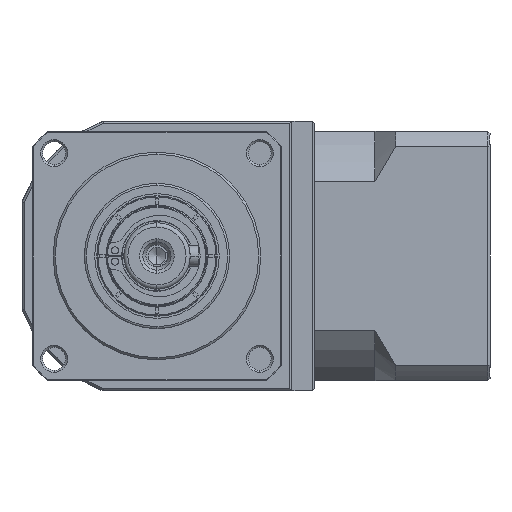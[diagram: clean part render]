
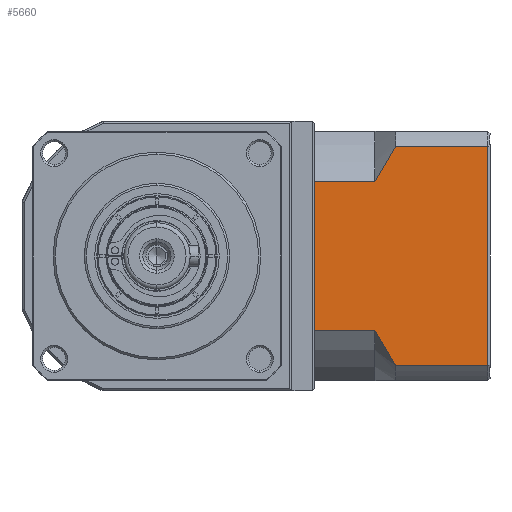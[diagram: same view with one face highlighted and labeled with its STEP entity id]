
A CAD part, left-side view. The second image highlights one B-rep face of the part: STEP entity #5660.
In plain terms, the highlighted planar face has unit normal (-1, 0, 0).
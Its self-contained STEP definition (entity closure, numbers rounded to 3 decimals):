
#797 = CARTESIAN_POINT ( 'NONE',  ( -17.619, -64.363, -105.585 ) ) ;
#2061 = VECTOR ( 'NONE', #17588, 1000. ) ;
#4554 = CARTESIAN_POINT ( 'NONE',  ( -17.619, -83.863, -97.155 ) ) ;
#5353 = CARTESIAN_POINT ( 'NONE',  ( -17.619, -78.863, -150.07 ) ) ;
#5660 = ADVANCED_FACE ( 'NONE', ( #120786 ), #89522, .F. ) ;
#6457 = VERTEX_POINT ( 'NONE', #17277 ) ;
#8419 = VERTEX_POINT ( 'NONE', #16263 ) ;
#9060 = EDGE_CURVE ( 'NONE', #88204, #91848, #43063, .T. ) ;
#9429 = DIRECTION ( 'NONE',  ( 0., -1., 0. ) ) ;
#14483 = DIRECTION ( 'NONE',  ( 0., -1., 0. ) ) ;
#16263 = CARTESIAN_POINT ( 'NONE',  ( -17.619, -64.363, -141.64 ) ) ;
#17277 = CARTESIAN_POINT ( 'NONE',  ( -17.619, -78.863, -105.585 ) ) ;
#17588 = DIRECTION ( 'NONE',  ( 0., 1., 0. ) ) ;
#18416 = AXIS2_PLACEMENT_3D ( 'NONE', #43293, #42782, #41734 ) ;
#20206 = LINE ( 'NONE', #62330, #48760 ) ;
#27168 = VERTEX_POINT ( 'NONE', #45883 ) ;
#27986 = CARTESIAN_POINT ( 'NONE',  ( -17.619, -83.863, -150.07 ) ) ;
#29048 = CARTESIAN_POINT ( 'NONE',  ( -17.619, -82.091, -99.894 ) ) ;
#34324 = CARTESIAN_POINT ( 'NONE',  ( -17.619, -79.614, -143.097 ) ) ;
#35590 = VECTOR ( 'NONE', #39265, 1000. ) ;
#35794 = LINE ( 'NONE', #153232, #96626 ) ;
#37527 = ORIENTED_EDGE ( 'NONE', *, *, #87699, .T. ) ;
#39265 = DIRECTION ( 'NONE',  ( 0., 0., -1. ) ) ;
#39710 = CARTESIAN_POINT ( 'NONE',  ( -17.619, -106.063, -97.155 ) ) ;
#39874 = EDGE_CURVE ( 'NONE', #27168, #91848, #131688, .T. ) ;
#41304 = CARTESIAN_POINT ( 'NONE',  ( -17.619, -79.611, -104.133 ) ) ;
#41734 = DIRECTION ( 'NONE',  ( 0., 1., 0. ) ) ;
#42782 = DIRECTION ( 'NONE',  ( 1., 0., 0. ) ) ;
#43063 = B_SPLINE_CURVE_WITH_KNOTS ( 'NONE', 3,
 ( #131824, #34324, #46583, #58731, #144056, #70936 ),
 .UNSPECIFIED., .F., .F.,
 ( 4, 2, 4 ),
 ( 0.1, 0.104, 0.109 ),
 .UNSPECIFIED. ) ;
#43173 = CARTESIAN_POINT ( 'NONE',  ( -17.619, -78.863, -141.64 ) ) ;
#43293 = CARTESIAN_POINT ( 'NONE',  ( -17.619, -106.563, -153.613 ) ) ;
#43393 = EDGE_CURVE ( 'NONE', #97683, #8419, #128982, .T. ) ;
#45459 = ORIENTED_EDGE ( 'NONE', *, *, #9060, .T. ) ;
#45883 = CARTESIAN_POINT ( 'NONE',  ( -17.619, -106.063, -150.07 ) ) ;
#46583 = CARTESIAN_POINT ( 'NONE',  ( -17.619, -80.414, -144.522 ) ) ;
#47142 = ORIENTED_EDGE ( 'NONE', *, *, #120325, .F. ) ;
#48283 = VERTEX_POINT ( 'NONE', #39710 ) ;
#48760 = VECTOR ( 'NONE', #14483, 1000. ) ;
#49337 = EDGE_LOOP ( 'NONE', ( #75322, #153730, #50801, #37527, #47142, #134863, #56714, #45459 ) ) ;
#50801 = ORIENTED_EDGE ( 'NONE', *, *, #98330, .F. ) ;
#56714 = ORIENTED_EDGE ( 'NONE', *, *, #124557, .F. ) ;
#58731 = CARTESIAN_POINT ( 'NONE',  ( -17.619, -82.088, -147.327 ) ) ;
#62330 = CARTESIAN_POINT ( 'NONE',  ( -17.619, -78.863, -97.155 ) ) ;
#70936 = CARTESIAN_POINT ( 'NONE',  ( -17.619, -83.863, -150.07 ) ) ;
#73522 = VECTOR ( 'NONE', #9429, 1000. ) ;
#75322 = ORIENTED_EDGE ( 'NONE', *, *, #39874, .F. ) ;
#77359 = LINE ( 'NONE', #94561, #73522 ) ;
#77468 = DIRECTION ( 'NONE',  ( 0., 0., 1. ) ) ;
#81496 = VECTOR ( 'NONE', #77468, 1000. ) ;
#87699 = EDGE_CURVE ( 'NONE', #141704, #6457, #115680, .T. ) ;
#88204 = VERTEX_POINT ( 'NONE', #43173 ) ;
#89522 = PLANE ( 'NONE',  #18416 ) ;
#91848 = VERTEX_POINT ( 'NONE', #27986 ) ;
#94561 = CARTESIAN_POINT ( 'NONE',  ( -17.619, -78.863, -105.585 ) ) ;
#96626 = VECTOR ( 'NONE', #116863, 1000. ) ;
#97683 = VERTEX_POINT ( 'NONE', #797 ) ;
#98330 = EDGE_CURVE ( 'NONE', #141704, #48283, #20206, .T. ) ;
#112084 = CARTESIAN_POINT ( 'NONE',  ( -17.619, -64.363, -153.613 ) ) ;
#114102 = CARTESIAN_POINT ( 'NONE',  ( -17.619, -80.415, -102.701 ) ) ;
#115680 = B_SPLINE_CURVE_WITH_KNOTS ( 'NONE', 3,
 ( #4554, #150463, #29048, #114102, #41304, #126472 ),
 .UNSPECIFIED., .F., .F.,
 ( 4, 2, 4 ),
 ( 0.052, 0.057, 0.062 ),
 .UNSPECIFIED. ) ;
#116863 = DIRECTION ( 'NONE',  ( 0., 1., 0. ) ) ;
#120325 = EDGE_CURVE ( 'NONE', #97683, #6457, #77359, .T. ) ;
#120786 = FACE_OUTER_BOUND ( 'NONE', #49337, .T. ) ;
#124339 = EDGE_CURVE ( 'NONE', #27168, #48283, #146430, .T. ) ;
#124557 = EDGE_CURVE ( 'NONE', #88204, #8419, #35794, .T. ) ;
#126472 = CARTESIAN_POINT ( 'NONE',  ( -17.619, -78.863, -105.585 ) ) ;
#128982 = LINE ( 'NONE', #112084, #35590 ) ;
#131688 = LINE ( 'NONE', #5353, #2061 ) ;
#131824 = CARTESIAN_POINT ( 'NONE',  ( -17.619, -78.863, -141.64 ) ) ;
#134863 = ORIENTED_EDGE ( 'NONE', *, *, #43393, .T. ) ;
#141704 = VERTEX_POINT ( 'NONE', #152956 ) ;
#144056 = CARTESIAN_POINT ( 'NONE',  ( -17.619, -82.962, -148.707 ) ) ;
#146430 = LINE ( 'NONE', #150582, #81496 ) ;
#150463 = CARTESIAN_POINT ( 'NONE',  ( -17.619, -82.964, -98.515 ) ) ;
#150582 = CARTESIAN_POINT ( 'NONE',  ( -17.619, -106.063, -153.613 ) ) ;
#152956 = CARTESIAN_POINT ( 'NONE',  ( -17.619, -83.863, -97.155 ) ) ;
#153232 = CARTESIAN_POINT ( 'NONE',  ( -17.619, -78.863, -141.64 ) ) ;
#153730 = ORIENTED_EDGE ( 'NONE', *, *, #124339, .T. ) ;
